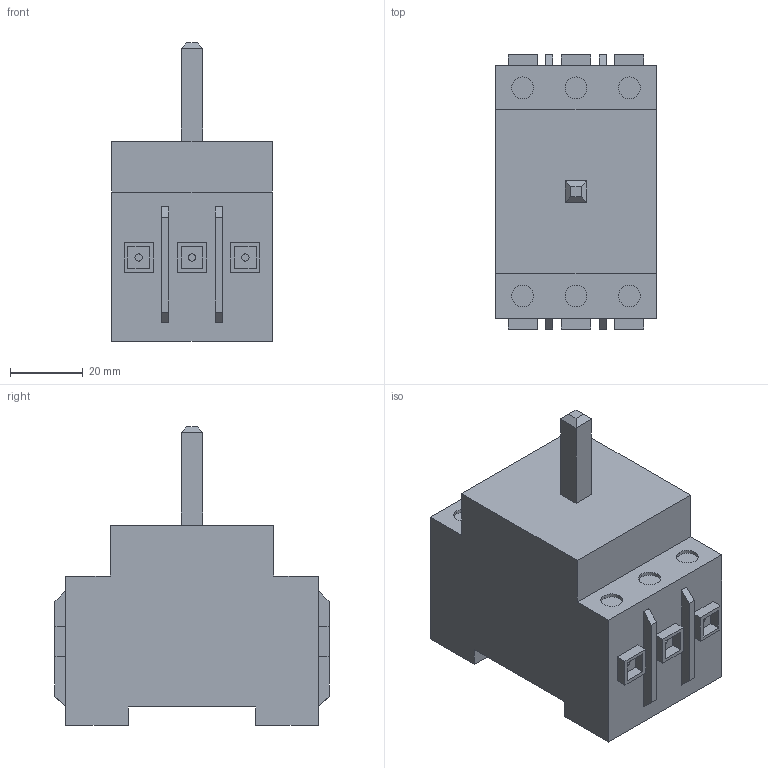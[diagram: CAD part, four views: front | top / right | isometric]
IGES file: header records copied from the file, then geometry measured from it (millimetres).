
Start section:  PTC IGES file: C:\TPO v2\SharedFS\Outgoing\bloc_nu_022110_ew.igs
Global section: file name: C:\TPO v2\SharedFS\Outgoing\bloc_nu_022110_ew.igs; native system:  by Parametric Technology Corporation; preprocessor: 2013430; organization: Unknown; date: 20170503.164526; units: millimetre
Bounding box: 44 x 75.4 x 82 mm (x, y, z)
Volume: 147175.8 mm3; surface area: 20483.9 mm2
Topology: 1 solids, 1 shells, 139 faces, 320 edges, 212 vertices
Faces by surface type: bspline 115, revolution 24
